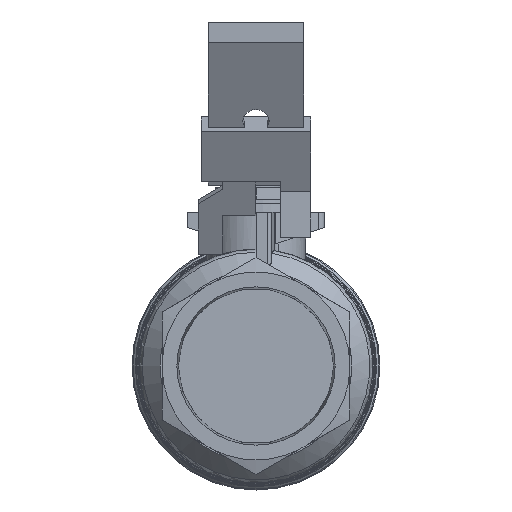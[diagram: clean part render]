
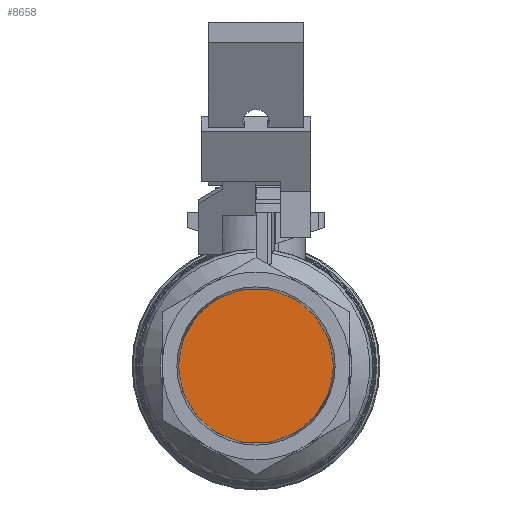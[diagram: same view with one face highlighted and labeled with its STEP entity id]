
A CAD part, left-side view. The second image highlights one B-rep face of the part: STEP entity #8658.
In plain terms, the highlighted planar face has unit normal (-1, 0, 0).
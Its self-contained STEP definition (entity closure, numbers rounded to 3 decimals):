
#8658 = ADVANCED_FACE('',(#8659),#8672,.T.);
#8659 = FACE_BOUND('',#8660,.T.);
#8660 = EDGE_LOOP('',(#8661));
#8661 = ORIENTED_EDGE('',*,*,#8662,.F.);
#8662 = EDGE_CURVE('',#8663,#8663,#8665,.T.);
#8663 = VERTEX_POINT('',#8664);
#8664 = CARTESIAN_POINT('',(0.681,0.89,0.));
#8665 = SURFACE_CURVE('',#8666,(#8671,#8687),.PCURVE_S1.);
#8666 = CIRCLE('',#8667,0.89);
#8667 = AXIS2_PLACEMENT_3D('',#8668,#8669,#8670);
#8668 = CARTESIAN_POINT('',(0.681,0.,0.));
#8669 = DIRECTION('',(1.,0.,0.));
#8670 = DIRECTION('',(-0.,1.,0.));
#8671 = PCURVE('',#8672,#8677);
#8672 = PLANE('',#8673);
#8673 = AXIS2_PLACEMENT_3D('',#8674,#8675,#8676);
#8674 = CARTESIAN_POINT('',(0.681,0.445,0.));
#8675 = DIRECTION('',(-1.,-0.,-0.));
#8676 = DIRECTION('',(-0.,1.,-0.));
#8677 = DEFINITIONAL_REPRESENTATION('',(#8678),#8686);
#8678 = ( BOUNDED_CURVE() B_SPLINE_CURVE(2,(#8679,#8680,#8681,#8682,
#8683,#8684,#8685),.UNSPECIFIED.,.T.,.F.) B_SPLINE_CURVE_WITH_KNOTS((1,2
    ,2,2,2,1),(-2.094,0.,2.094,4.189,
6.283,8.378),.UNSPECIFIED.) CURVE() 
GEOMETRIC_REPRESENTATION_ITEM() RATIONAL_B_SPLINE_CURVE((1.,0.5,1.,0.5,
1.,0.5,1.)) REPRESENTATION_ITEM('') );
#8679 = CARTESIAN_POINT('',(0.445,0.));
#8680 = CARTESIAN_POINT('',(0.445,-1.541));
#8681 = CARTESIAN_POINT('',(-0.89,-0.771));
#8682 = CARTESIAN_POINT('',(-2.225,0.));
#8683 = CARTESIAN_POINT('',(-0.89,0.771));
#8684 = CARTESIAN_POINT('',(0.445,1.541));
#8685 = CARTESIAN_POINT('',(0.445,0.));
#8686 = ( GEOMETRIC_REPRESENTATION_CONTEXT(2) 
PARAMETRIC_REPRESENTATION_CONTEXT() REPRESENTATION_CONTEXT('2D SPACE',''
  ) );
#8687 = PCURVE('',#8688,#8693);
#8688 = CONICAL_SURFACE('',#8689,0.901,0.031);
#8689 = AXIS2_PLACEMENT_3D('',#8690,#8691,#8692);
#8690 = CARTESIAN_POINT('',(57.979,0.,0.));
#8691 = DIRECTION('',(1.,0.,0.));
#8692 = DIRECTION('',(0.,-1.,0.));
#8693 = DEFINITIONAL_REPRESENTATION('',(#8694),#8698);
#8694 = LINE('',#8695,#8696);
#8695 = CARTESIAN_POINT('',(0.,-57.298));
#8696 = VECTOR('',#8697,1.);
#8697 = DIRECTION('',(1.,0.));
#8698 = ( GEOMETRIC_REPRESENTATION_CONTEXT(2) 
PARAMETRIC_REPRESENTATION_CONTEXT() REPRESENTATION_CONTEXT('2D SPACE',''
  ) );
